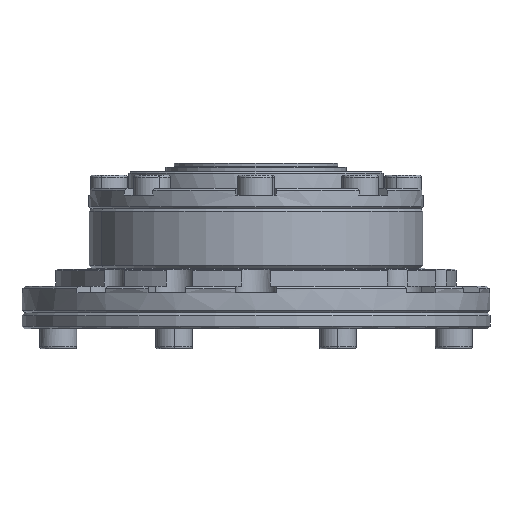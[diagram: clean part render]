
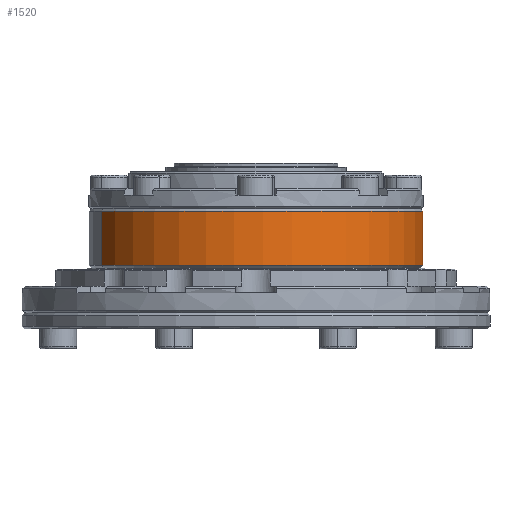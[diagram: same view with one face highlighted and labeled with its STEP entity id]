
A CAD part, front view. The second image highlights one B-rep face of the part: STEP entity #1520.
In plain terms, the highlighted cylindrical face has radius 25 mm (diameter 50 mm), a partial arc.
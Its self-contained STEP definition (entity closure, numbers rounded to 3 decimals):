
#521 = CARTESIAN_POINT ( 'NONE',  ( 23.097, 9.567, -11.5 ) ) ;
#1520 = ADVANCED_FACE ( 'NONE', ( #33243 ), #6672, .T. ) ;
#1534 = CARTESIAN_POINT ( 'NONE',  ( 23.097, 9.567, -25.967 ) ) ;
#1570 = EDGE_CURVE ( 'NONE', #28162, #24435, #20784, .T. ) ;
#1645 = CARTESIAN_POINT ( 'NONE',  ( -23.097, -9.567, -25.967 ) ) ;
#1752 = DIRECTION ( 'NONE',  ( -0.924, -0.383, 0. ) ) ;
#2922 = EDGE_CURVE ( 'NONE', #7655, #7137, #19840, .T. ) ;
#4521 = DIRECTION ( 'NONE',  ( 0., 0., -1. ) ) ;
#5378 = AXIS2_PLACEMENT_3D ( 'NONE', #10993, #24100, #16095 ) ;
#6573 = VECTOR ( 'NONE', #30759, 1000. ) ;
#6672 = CYLINDRICAL_SURFACE ( 'NONE', #13761, 25. ) ;
#7107 = CARTESIAN_POINT ( 'NONE',  ( -23.097, -9.567, -3.4 ) ) ;
#7137 = VERTEX_POINT ( 'NONE', #25498 ) ;
#7655 = VERTEX_POINT ( 'NONE', #7107 ) ;
#10993 = CARTESIAN_POINT ( 'NONE',  ( 0., 0., -11.5 ) ) ;
#11209 = CARTESIAN_POINT ( 'NONE',  ( 23.097, 9.567, -3.4 ) ) ;
#13761 = AXIS2_PLACEMENT_3D ( 'NONE', #20187, #4521, #1752 ) ;
#13924 = DIRECTION ( 'NONE',  ( -0.924, -0.383, 0. ) ) ;
#14322 = EDGE_LOOP ( 'NONE', ( #18191, #20200, #14870, #23004 ) ) ;
#14870 = ORIENTED_EDGE ( 'NONE', *, *, #2922, .T. ) ;
#16095 = DIRECTION ( 'NONE',  ( -0.924, -0.383, 0. ) ) ;
#18191 = ORIENTED_EDGE ( 'NONE', *, *, #1570, .F. ) ;
#18814 = CIRCLE ( 'NONE', #22442, 25. ) ;
#19840 = LINE ( 'NONE', #1645, #6573 ) ;
#20187 = CARTESIAN_POINT ( 'NONE',  ( 0., 0., -25.967 ) ) ;
#20200 = ORIENTED_EDGE ( 'NONE', *, *, #32938, .T. ) ;
#20784 = LINE ( 'NONE', #1534, #23271 ) ;
#21904 = DIRECTION ( 'NONE',  ( 0., 0., -1. ) ) ;
#22442 = AXIS2_PLACEMENT_3D ( 'NONE', #24271, #21904, #13924 ) ;
#23004 = ORIENTED_EDGE ( 'NONE', *, *, #33443, .F. ) ;
#23271 = VECTOR ( 'NONE', #28191, 1000. ) ;
#24100 = DIRECTION ( 'NONE',  ( 0., 0., -1. ) ) ;
#24271 = CARTESIAN_POINT ( 'NONE',  ( 0., 0., -3.4 ) ) ;
#24435 = VERTEX_POINT ( 'NONE', #521 ) ;
#25498 = CARTESIAN_POINT ( 'NONE',  ( -23.097, -9.567, -11.5 ) ) ;
#28162 = VERTEX_POINT ( 'NONE', #11209 ) ;
#28191 = DIRECTION ( 'NONE',  ( 0., 0., -1. ) ) ;
#30759 = DIRECTION ( 'NONE',  ( 0., 0., -1. ) ) ;
#31672 = CIRCLE ( 'NONE', #5378, 25. ) ;
#32938 = EDGE_CURVE ( 'NONE', #28162, #7655, #18814, .T. ) ;
#33243 = FACE_OUTER_BOUND ( 'NONE', #14322, .T. ) ;
#33443 = EDGE_CURVE ( 'NONE', #24435, #7137, #31672, .T. ) ;
